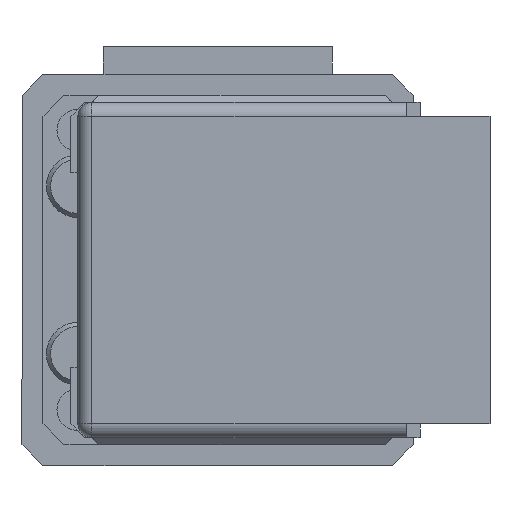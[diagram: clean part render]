
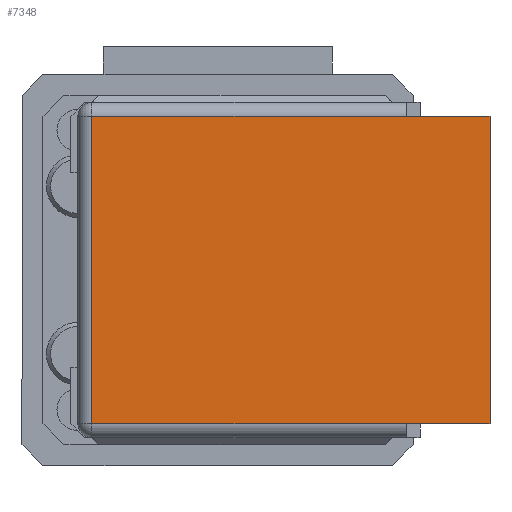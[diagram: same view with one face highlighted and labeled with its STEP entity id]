
A CAD part, left-side view. The second image highlights one B-rep face of the part: STEP entity #7348.
In plain terms, the highlighted planar face has unit normal (-1, 0, 0).
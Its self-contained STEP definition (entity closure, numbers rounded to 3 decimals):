
#60 = CARTESIAN_POINT ( 'NONE',  ( 0., 28.5, -11. ) ) ;
#175 = VERTEX_POINT ( 'NONE', #60 ) ;
#220 = EDGE_CURVE ( 'NONE', #1124, #5099, #1841, .T. ) ;
#444 = ORIENTED_EDGE ( 'NONE', *, *, #911, .T. ) ;
#509 = LINE ( 'NONE', #7114, #3327 ) ;
#534 = EDGE_CURVE ( 'NONE', #1124, #7355, #5244, .T. ) ;
#549 = VERTEX_POINT ( 'NONE', #1822 ) ;
#786 = CARTESIAN_POINT ( 'NONE',  ( 0., 6., -11. ) ) ;
#884 = CARTESIAN_POINT ( 'NONE',  ( 0., 0., 11. ) ) ;
#911 = EDGE_CURVE ( 'NONE', #5099, #175, #2595, .T. ) ;
#1124 = VERTEX_POINT ( 'NONE', #4478 ) ;
#1507 = EDGE_CURVE ( 'NONE', #549, #7355, #5674, .T. ) ;
#1822 = CARTESIAN_POINT ( 'NONE',  ( 0., 0., -11. ) ) ;
#1841 = LINE ( 'NONE', #6820, #4653 ) ;
#2067 = VECTOR ( 'NONE', #3310, 1000. ) ;
#2222 = CARTESIAN_POINT ( 'NONE',  ( 0., 28.5, 11. ) ) ;
#2243 = VECTOR ( 'NONE', #2381, 1000. ) ;
#2381 = DIRECTION ( 'NONE',  ( 0., -1., 0. ) ) ;
#2590 = DIRECTION ( 'NONE',  ( 0., 0., 1. ) ) ;
#2595 = LINE ( 'NONE', #4313, #6753 ) ;
#2877 = DIRECTION ( 'NONE',  ( 1., 0., 0. ) ) ;
#3012 = ORIENTED_EDGE ( 'NONE', *, *, #534, .F. ) ;
#3207 = ORIENTED_EDGE ( 'NONE', *, *, #4194, .T. ) ;
#3310 = DIRECTION ( 'NONE',  ( 0., -1., 0. ) ) ;
#3327 = VECTOR ( 'NONE', #4248, 1000. ) ;
#3402 = VERTEX_POINT ( 'NONE', #786 ) ;
#3412 = ORIENTED_EDGE ( 'NONE', *, *, #6101, .T. ) ;
#4005 = CARTESIAN_POINT ( 'NONE',  ( 0., 0., 11. ) ) ;
#4094 = CARTESIAN_POINT ( 'NONE',  ( 0., 6., 11. ) ) ;
#4194 = EDGE_CURVE ( 'NONE', #3402, #549, #509, .T. ) ;
#4248 = DIRECTION ( 'NONE',  ( 0., -1., 0. ) ) ;
#4313 = CARTESIAN_POINT ( 'NONE',  ( 0., 28.5, 11. ) ) ;
#4466 = EDGE_LOOP ( 'NONE', ( #444, #3412, #3207, #6369, #3012, #5949 ) ) ;
#4478 = CARTESIAN_POINT ( 'NONE',  ( 0., 6., 11. ) ) ;
#4653 = VECTOR ( 'NONE', #7249, 1000. ) ;
#5099 = VERTEX_POINT ( 'NONE', #2222 ) ;
#5136 = CARTESIAN_POINT ( 'NONE',  ( 0., 6., 11. ) ) ;
#5244 = LINE ( 'NONE', #4094, #2243 ) ;
#5497 = VECTOR ( 'NONE', #2590, 1000. ) ;
#5674 = LINE ( 'NONE', #884, #5497 ) ;
#5711 = PLANE ( 'NONE',  #6798 ) ;
#5949 = ORIENTED_EDGE ( 'NONE', *, *, #220, .T. ) ;
#6101 = EDGE_CURVE ( 'NONE', #175, #3402, #6582, .T. ) ;
#6369 = ORIENTED_EDGE ( 'NONE', *, *, #1507, .T. ) ;
#6582 = LINE ( 'NONE', #6746, #2067 ) ;
#6589 = DIRECTION ( 'NONE',  ( 0., 0., -1. ) ) ;
#6734 = FACE_OUTER_BOUND ( 'NONE', #4466, .T. ) ;
#6746 = CARTESIAN_POINT ( 'NONE',  ( 0., 6., -11. ) ) ;
#6753 = VECTOR ( 'NONE', #6589, 1000. ) ;
#6798 = AXIS2_PLACEMENT_3D ( 'NONE', #5136, #2877, #6862 ) ;
#6820 = CARTESIAN_POINT ( 'NONE',  ( 0., 6., 11. ) ) ;
#6862 = DIRECTION ( 'NONE',  ( 0., 0., -1. ) ) ;
#7114 = CARTESIAN_POINT ( 'NONE',  ( 0., 6., -11. ) ) ;
#7249 = DIRECTION ( 'NONE',  ( 0., 1., 0. ) ) ;
#7348 = ADVANCED_FACE ( 'NONE', ( #6734 ), #5711, .F. ) ;
#7355 = VERTEX_POINT ( 'NONE', #4005 ) ;
